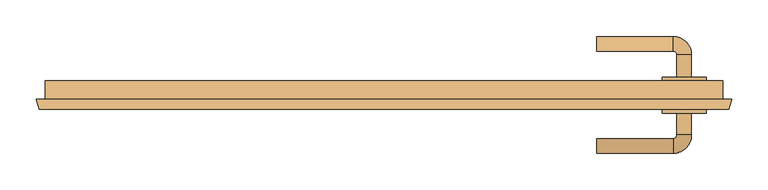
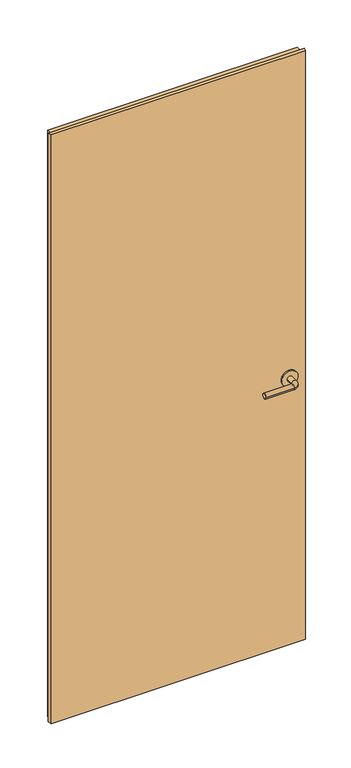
"""IFC4 building model written with IfcOpenShell, lengths in millimetres: door geometry, test_01_deurpaneel : opdek."""

from ifc_helpers import new_model, si_unit, point, frame, frame_2d, origin, place, context, project, spatial, circle_curve, ellipse_curve, trimmed, segment, composite_curve, outline, extrude, faceted_brep, source, transform, mapped, element, save
from ifc_brep_helpers import plane_surface, cylinder_surface, revolved_surface, advanced_brep


def door_bdfb3649(model_context):
    return source(origin(), model_context, "Body", "SolidModel", [
        extrude(outline(composite_curve([segment(trimmed(circle_curve(frame_2d((1050.0, 412.0)), 30.0), [point((1050.0, 442.0))], [point((1050.0, 382.0))], False, "CARTESIAN"), True, "CONTINUOUS"), segment(trimmed(circle_curve(frame_2d((1050.0, 412.0)), 30.0), [point((1050.0, 382.0))], [point((1050.0, 442.0))], False, "CARTESIAN"), True, "CONTINUOUS")], self_intersect=False)), frame((0.0, -44.0, 0.0), z_axis=(0.0, 1.0, 0.0), x_axis=(0.0, 0.0, 1.0)), (0.0, 0.0, 1.0), 5.0),
        extrude(outline(composite_curve([segment(trimmed(circle_curve(frame_2d((1050.0, 412.0)), 30.0), [point((1050.0, 442.0))], [point((1050.0, 382.0))], False, "CARTESIAN"), True, "CONTINUOUS"), segment(trimmed(circle_curve(frame_2d((1050.0, 412.0)), 30.0), [point((1050.0, 382.0))], [point((1050.0, 442.0))], False, "CARTESIAN"), True, "CONTINUOUS")], self_intersect=False)), frame((0.0, 0.0, 0.0), z_axis=(0.0, 1.0, 0.0), x_axis=(0.0, 0.0, 1.0)), (0.0, 0.0, 1.0), 5.0),
        advanced_brep(
        [(402.0, 0.0, 1050.0), (422.0, 0.0, 1050.0), (402.0, 36.0, 1050.0), (422.0, 36.0, 1050.0), (397.0, 61.0, 1050.0), (397.0, 41.0, 1050.0), (292.0, 41.0, 1050.0), (292.0, 61.0, 1050.0)],
        [
            (0, 1, circle_curve(frame((412.0, 0.0, 1050.0), z_axis=(0.0, -1.0, 0.0), x_axis=(1.0, 0.0, 0.0)), 10.0)),
            (1, 0, circle_curve(frame((412.0, 0.0, 1050.0), z_axis=(0.0, -1.0, 0.0), x_axis=(1.0, 0.0, 0.0)), 10.0)),
            (0, 2),
            (2, 3, circle_curve(frame((412.0, 36.0, 1050.0), z_axis=(0.0, -1.0, 0.0), x_axis=(1.0, 0.0, 0.0)), 10.0)),
            (3, 1),
            (3, 2, circle_curve(frame((412.0, 36.0, 1050.0), z_axis=(0.0, -1.0, 0.0), x_axis=(1.0, 0.0, 0.0)), 10.0)),
            (4, 3, circle_curve(frame((397.0, 36.0, 1050.0), z_axis=(0.0, 0.0, -1.0), x_axis=(1.0, 0.0, 0.0)), 25.0)),
            (2, 5, circle_curve(frame((397.0, 36.0, 1050.0), z_axis=(0.0, 0.0, 1.0), x_axis=(1.0, 0.0, 0.0)), 5.0)),
            (5, 4, circle_curve(frame((397.0, 51.0, 1050.0), z_axis=(1.0, 0.0, 0.0), x_axis=(0.0, 1.0, 0.0)), 10.0)),
            (4, 5, circle_curve(frame((397.0, 51.0, 1050.0), z_axis=(1.0, 0.0, 0.0), x_axis=(0.0, 1.0, 0.0)), 10.0)),
            (6, 7, circle_curve(frame((292.0, 51.0, 1050.0), z_axis=(-1.0, 0.0, 0.0), x_axis=(0.0, 1.0, 0.0)), 10.0)),
            (7, 6, circle_curve(frame((292.0, 51.0, 1050.0), z_axis=(-1.0, 0.0, 0.0), x_axis=(0.0, 1.0, 0.0)), 10.0)),
            (5, 6),
            (7, 4),
        ],
        [
            plane_surface(frame((412.0, 0.0, 1050.0), z_axis=(0.0, -1.0, 0.0), x_axis=(0.0, 0.0, 1.0))),
            cylinder_surface(frame((412.0, 0.0, 1050.0), z_axis=(0.0, -1.0, 0.0), x_axis=(1.0, 0.0, 0.0)), 10.0),
            revolved_surface(trimmed(ellipse_curve(frame((412.0, 36.0, 1050.0), z_axis=(0.0, -1.0, 0.0), x_axis=(1.0, 0.0, 0.0)), 10.0, 10.0), [point((402.0, 36.0, 1050.0))], [point((422.0, 36.0, 1050.0))], True, "CARTESIAN"), (397.0, 36.0, 1050.0), (0.0, 0.0, 1.0)),
            revolved_surface(trimmed(ellipse_curve(frame((412.0, 36.0, 1050.0), z_axis=(0.0, -1.0, 0.0), x_axis=(1.0, 0.0, 0.0)), 10.0, 10.0), [point((422.0, 36.0, 1050.0))], [point((402.0, 36.0, 1050.0))], True, "CARTESIAN"), (397.0, 36.0, 1050.0), (0.0, 0.0, 1.0)),
            plane_surface(frame((292.0, 51.0, 1050.0), z_axis=(-1.0, 0.0, 0.0), x_axis=(0.0, 0.0, 1.0))),
            cylinder_surface(frame((397.0, 51.0, 1050.0), z_axis=(1.0, 0.0, 0.0), x_axis=(0.0, 1.0, 0.0)), 10.0),
        ],
        [
            (0, [[1, 2]]),
            (1, [[-1, 3, 4, 5]]),
            (1, [[-2, -5, 6, -3]]),
            (2, [[7, -4, 8, 9]]),
            (3, [[-8, -6, -7, 10]]),
            (4, [[11, 12]]),
            (5, [[-9, 13, -12, 14]]),
            (5, [[-10, -14, -11, -13]]),
        ],
    ),
        advanced_brep(
        [(292.0, -79.0, 1050.0), (292.0, -99.0, 1050.0), (397.0, -79.0, 1050.0), (397.0, -99.0, 1050.0), (422.0, -74.0, 1050.0), (402.0, -74.0, 1050.0), (402.0, -39.0, 1050.0), (422.0, -39.0, 1050.0)],
        [
            (0, 1, circle_curve(frame((292.0, -89.0, 1050.0), z_axis=(-1.0, 0.0, 0.0), x_axis=(0.0, -1.0, 0.0)), 10.0)),
            (1, 0, circle_curve(frame((292.0, -89.0, 1050.0), z_axis=(-1.0, 0.0, 0.0), x_axis=(0.0, -1.0, 0.0)), 10.0)),
            (0, 2),
            (2, 3, circle_curve(frame((397.0, -89.0, 1050.0), z_axis=(-1.0, 0.0, 0.0), x_axis=(0.0, -1.0, 0.0)), 10.0)),
            (3, 1),
            (3, 2, circle_curve(frame((397.0, -89.0, 1050.0), z_axis=(-1.0, 0.0, 0.0), x_axis=(0.0, -1.0, 0.0)), 10.0)),
            (4, 3, circle_curve(frame((397.0, -74.0, 1050.0), z_axis=(0.0, 0.0, -1.0), x_axis=(0.0, -1.0, 0.0)), 25.0)),
            (2, 5, circle_curve(frame((397.0, -74.0, 1050.0), z_axis=(0.0, 0.0, 1.0), x_axis=(0.0, -1.0, 0.0)), 5.0)),
            (5, 4, circle_curve(frame((412.0, -74.0, 1050.0), z_axis=(0.0, -1.0, 0.0), x_axis=(1.0, 0.0, 0.0)), 10.0)),
            (4, 5, circle_curve(frame((412.0, -74.0, 1050.0), z_axis=(0.0, -1.0, 0.0), x_axis=(1.0, 0.0, 0.0)), 10.0)),
            (6, 7, circle_curve(frame((412.0, -39.0, 1050.0), z_axis=(0.0, 1.0, 0.0), x_axis=(1.0, 0.0, 0.0)), 10.0)),
            (7, 6, circle_curve(frame((412.0, -39.0, 1050.0), z_axis=(0.0, 1.0, 0.0), x_axis=(1.0, 0.0, 0.0)), 10.0)),
            (5, 6),
            (7, 4),
        ],
        [
            plane_surface(frame((292.0, -89.0, 1050.0), z_axis=(-1.0, 0.0, 0.0), x_axis=(0.0, 0.0, 1.0))),
            cylinder_surface(frame((292.0, -89.0, 1050.0), z_axis=(-1.0, 0.0, 0.0), x_axis=(0.0, -1.0, 0.0)), 10.0),
            revolved_surface(trimmed(ellipse_curve(frame((397.0, -89.0, 1050.0), z_axis=(-1.0, 0.0, 0.0), x_axis=(0.0, -1.0, 0.0)), 10.0, 10.0), [point((397.0, -79.0, 1050.0))], [point((397.0, -99.0, 1050.0))], True, "CARTESIAN"), (397.0, -74.0, 1050.0), (0.0, 0.0, 1.0)),
            revolved_surface(trimmed(ellipse_curve(frame((397.0, -89.0, 1050.0), z_axis=(-1.0, 0.0, 0.0), x_axis=(0.0, -1.0, 0.0)), 10.0, 10.0), [point((397.0, -99.0, 1050.0))], [point((397.0, -79.0, 1050.0))], True, "CARTESIAN"), (397.0, -74.0, 1050.0), (0.0, 0.0, 1.0)),
            plane_surface(frame((412.0, -39.0, 1050.0), z_axis=(0.0, 1.0, 0.0), x_axis=(0.0, 0.0, 1.0))),
            cylinder_surface(frame((412.0, -74.0, 1050.0), z_axis=(0.0, -1.0, 0.0), x_axis=(1.0, 0.0, 0.0)), 10.0),
        ],
        [
            (0, [[1, 2]]),
            (1, [[-1, 3, 4, 5]]),
            (1, [[-2, -5, 6, -3]]),
            (2, [[7, -4, 8, 9]]),
            (3, [[-8, -6, -7, 10]]),
            (4, [[11, 12]]),
            (5, [[-9, 13, -12, 14]]),
            (5, [[-10, -14, -11, -13]]),
        ],
    ),
        faceted_brep([(-473.2487113, -39.0, 0.0), (473.2487113, -39.0, 0.0), (473.2487113, -39.0, 2315.0), (-473.2487113, -39.0, 2315.0), (465.0, 0.0, 0.0), (465.0, -25.0, 0.0), (477.0, -25.0, 0.0), (-477.0, -25.0, 0.0), (-465.0, -25.0, 0.0), (-465.0, 0.0, 0.0), (477.0, -25.0, 2315.0), (-477.0, -25.0, 2315.0), (-465.0, 0.0, 2307.0), (465.0, 0.0, 2307.0), (-465.0, -25.0, 2307.0), (465.0, -25.0, 2307.0)], [[[0, 1, 2, 3]], [[4, 5, 6, 1, 0, 7, 8, 9]], [[1, 6, 10, 2]], [[11, 7, 0, 3]], [[4, 9, 12, 13]], [[9, 8, 14, 12]], [[5, 4, 13, 15]], [[6, 5, 15, 14, 8, 7, 11, 10]], [[10, 11, 3, 2]], [[14, 15, 13, 12]]]),
    ])


if __name__ == "__main__":
    model = new_model("IFC4")
    model_context = context("Model", 3, world=origin())
    ifc_project = project(units=[si_unit("LENGTHUNIT", "METRE", prefix="MILLI")], contexts=[model_context])
    site = spatial("IfcSite", under=ifc_project)
    building = spatial("IfcBuilding", under=site)
    placement = place(None, origin())
    door_shape = door_bdfb3649(model_context)
    element("IfcDoor", 1, ObjectType="test_01_deurpaneel : opdek", at=placement, inside=building, context=model_context, shape_type="MappedRepresentation", body=[
        mapped(door_shape, transform((0.0, 0.0, 0.0), x_axis=(1.0, 0.0, 0.0), y_axis=(0.0, 1.0, 0.0), z_axis=(0.0, 0.0, 1.0))),
    ])
    save(model, "model.ifc")
